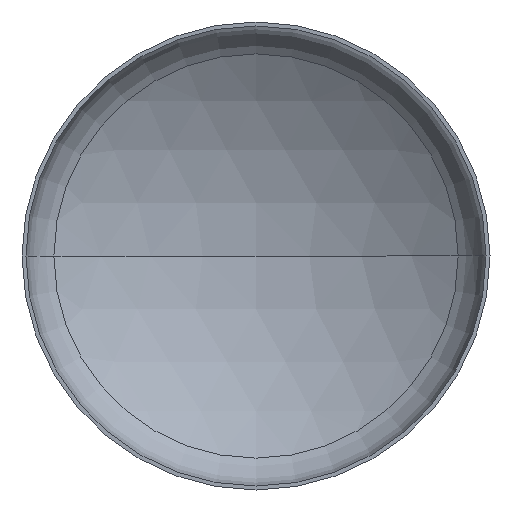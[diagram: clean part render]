
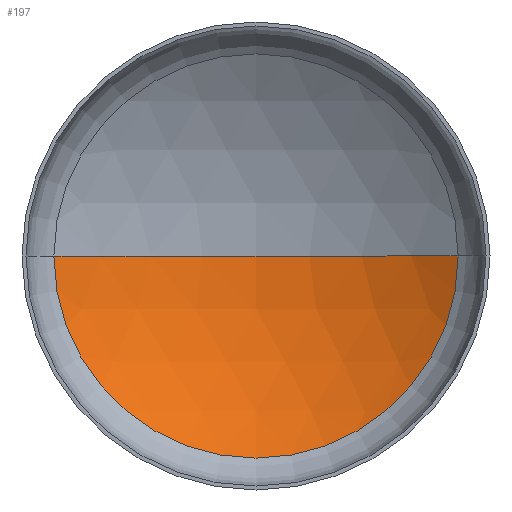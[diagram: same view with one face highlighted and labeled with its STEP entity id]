
A CAD part, front view. The second image highlights one B-rep face of the part: STEP entity #197.
In plain terms, the highlighted spherical face has radius 278.8 mm.
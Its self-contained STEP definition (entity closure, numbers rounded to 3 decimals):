
#7 = CARTESIAN_POINT ( 'NONE',  ( 0., -175.8, 0. ) ) ;
#25 = AXIS2_PLACEMENT_3D ( 'NONE', #170, #245, #80 ) ;
#47 = ORIENTED_EDGE ( 'NONE', *, *, #340, .T. ) ;
#54 = ORIENTED_EDGE ( 'NONE', *, *, #406, .F. ) ;
#60 = CIRCLE ( 'NONE', #274, 278.8 ) ;
#61 = EDGE_LOOP ( 'NONE', ( #54, #47, #139 ) ) ;
#63 = DIRECTION ( 'NONE',  ( -1., 0., 0. ) ) ;
#79 = CIRCLE ( 'NONE', #25, 278.8 ) ;
#80 = DIRECTION ( 'NONE',  ( 1., 0., 0. ) ) ;
#100 = SPHERICAL_SURFACE ( 'NONE', #324, 278.8 ) ;
#101 = DIRECTION ( 'NONE',  ( -1., 0., 0. ) ) ;
#126 = CARTESIAN_POINT ( 'NONE',  ( 0., 103., 0. ) ) ;
#135 = CIRCLE ( 'NONE', #293, 153.738 ) ;
#139 = ORIENTED_EDGE ( 'NONE', *, *, #351, .F. ) ;
#156 = VERTEX_POINT ( 'NONE', #126 ) ;
#166 = CARTESIAN_POINT ( 'NONE',  ( 0., -175.8, 0. ) ) ;
#170 = CARTESIAN_POINT ( 'NONE',  ( 0., -175.8, 0. ) ) ;
#187 = DIRECTION ( 'NONE',  ( -1., 0., 0. ) ) ;
#197 = ADVANCED_FACE ( 'NONE', ( #408 ), #100, .F. ) ;
#224 = VERTEX_POINT ( 'NONE', #288 ) ;
#245 = DIRECTION ( 'NONE',  ( 0., 0., 1. ) ) ;
#248 = VERTEX_POINT ( 'NONE', #352 ) ;
#274 = AXIS2_PLACEMENT_3D ( 'NONE', #7, #357, #101 ) ;
#288 = CARTESIAN_POINT ( 'NONE',  ( 153.738, 56.782, 0. ) ) ;
#293 = AXIS2_PLACEMENT_3D ( 'NONE', #369, #401, #187 ) ;
#324 = AXIS2_PLACEMENT_3D ( 'NONE', #166, #376, #63 ) ;
#340 = EDGE_CURVE ( 'NONE', #224, #156, #79, .T. ) ;
#351 = EDGE_CURVE ( 'NONE', #248, #156, #60, .T. ) ;
#352 = CARTESIAN_POINT ( 'NONE',  ( -153.738, 56.782, 0. ) ) ;
#357 = DIRECTION ( 'NONE',  ( 0., 0., -1. ) ) ;
#369 = CARTESIAN_POINT ( 'NONE',  ( 0., 56.782, 0. ) ) ;
#376 = DIRECTION ( 'NONE',  ( 0., 0., 1. ) ) ;
#401 = DIRECTION ( 'NONE',  ( 0., 1., 0. ) ) ;
#406 = EDGE_CURVE ( 'NONE', #224, #248, #135, .T. ) ;
#408 = FACE_OUTER_BOUND ( 'NONE', #61, .T. ) ;
